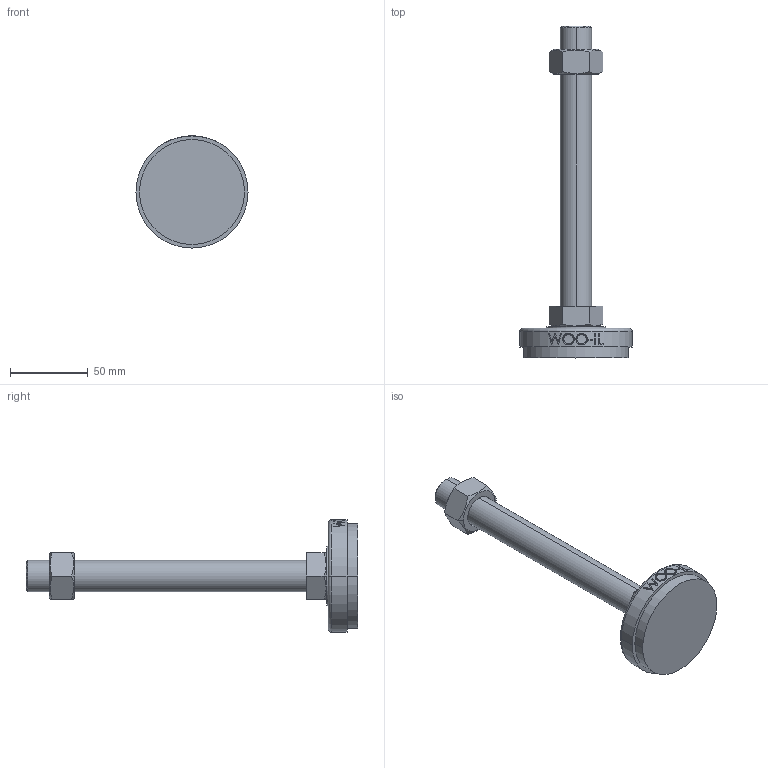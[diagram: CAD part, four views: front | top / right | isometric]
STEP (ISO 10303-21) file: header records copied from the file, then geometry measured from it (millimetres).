
FILE_DESCRIPTION (( 'STEP AP214' ), '1' );
FILE_NAME ('NS72-M20-180.step', '2021-01-11T05:48:33', ( '' ), ( '' ), 'SwSTEP 2.0', 'SolidWorks 2019', '' );
FILE_SCHEMA (( 'AUTOMOTIVE_DESIGN' ));
Length unit declared in the file: millimetre
Products named in the file (2): NS72-M20-180
Bounding box: 72 x 213 x 72 mm (x, y, z)
Volume: 148632.8 mm3; surface area: 29839.3 mm2
Topology: 3 solids, 3 shells, 96 faces, 223 edges, 144 vertices
Faces by surface type: plane 48, cylinder 18, bspline 16, cone 12, torus 2
Entity records: 4274 total; most frequent: CARTESIAN_POINT 2149, ORIENTED_EDGE 446, DIRECTION 381, EDGE_CURVE 223, VERTEX_POINT 144, AXIS2_PLACEMENT_3D 142, EDGE_LOOP 109, VECTOR 97
